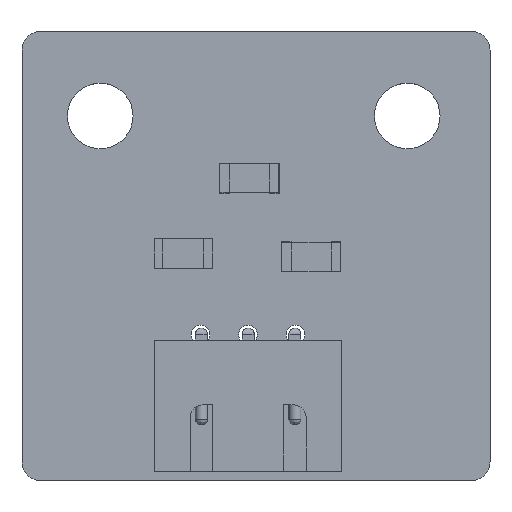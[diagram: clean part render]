
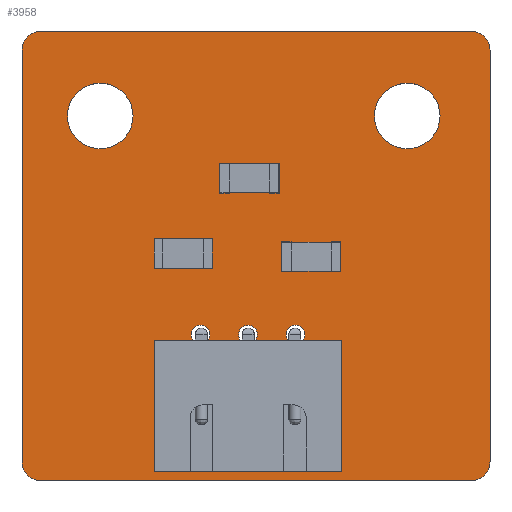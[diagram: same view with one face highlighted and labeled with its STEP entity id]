
A CAD part, top view. The second image highlights one B-rep face of the part: STEP entity #3958.
In plain terms, the highlighted planar face has unit normal (0, 0, 1).
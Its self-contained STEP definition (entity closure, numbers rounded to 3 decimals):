
#3754 = VERTEX_POINT('',#3755);
#3755 = CARTESIAN_POINT('',(76.56,-63.95,1.51));
#3761 = EDGE_CURVE('',#3754,#3762,#3764,.T.);
#3762 = VERTEX_POINT('',#3763);
#3763 = CARTESIAN_POINT('',(77.56,-64.95,1.51));
#3764 = CIRCLE('',#3765,1.);
#3765 = AXIS2_PLACEMENT_3D('',#3766,#3767,#3768);
#3766 = CARTESIAN_POINT('',(76.56,-64.95,1.51));
#3767 = DIRECTION('',(0.,0.,-1.));
#3768 = DIRECTION('',(0.,1.,0.));
#3796 = VERTEX_POINT('',#3797);
#3797 = CARTESIAN_POINT('',(53.56,-63.95,1.51));
#3803 = EDGE_CURVE('',#3796,#3754,#3804,.T.);
#3804 = LINE('',#3805,#3806);
#3805 = CARTESIAN_POINT('',(53.56,-63.95,1.51));
#3806 = VECTOR('',#3807,1.);
#3807 = DIRECTION('',(1.,0.,0.));
#3825 = EDGE_CURVE('',#3762,#3826,#3828,.T.);
#3826 = VERTEX_POINT('',#3827);
#3827 = CARTESIAN_POINT('',(77.56,-86.95,1.51));
#3828 = LINE('',#3829,#3830);
#3829 = CARTESIAN_POINT('',(77.56,-64.95,1.51));
#3830 = VECTOR('',#3831,1.);
#3831 = DIRECTION('',(0.,-1.,0.));
#3958 = ADVANCED_FACE('',(#3959,#4005,#4016,#4027,#4038,#4049),#4060,.T.
  );
#3959 = FACE_BOUND('',#3960,.T.);
#3960 = EDGE_LOOP('',(#3961,#3962,#3963,#3972,#3980,#3989,#3997,#4004));
#3961 = ORIENTED_EDGE('',*,*,#3761,.F.);
#3962 = ORIENTED_EDGE('',*,*,#3803,.F.);
#3963 = ORIENTED_EDGE('',*,*,#3964,.F.);
#3964 = EDGE_CURVE('',#3965,#3796,#3967,.T.);
#3965 = VERTEX_POINT('',#3966);
#3966 = CARTESIAN_POINT('',(52.56,-64.95,1.51));
#3967 = CIRCLE('',#3968,1.);
#3968 = AXIS2_PLACEMENT_3D('',#3969,#3970,#3971);
#3969 = CARTESIAN_POINT('',(53.56,-64.95,1.51));
#3970 = DIRECTION('',(0.,0.,-1.));
#3971 = DIRECTION('',(-1.,0.,-0.));
#3972 = ORIENTED_EDGE('',*,*,#3973,.F.);
#3973 = EDGE_CURVE('',#3974,#3965,#3976,.T.);
#3974 = VERTEX_POINT('',#3975);
#3975 = CARTESIAN_POINT('',(52.56,-86.95,1.51));
#3976 = LINE('',#3977,#3978);
#3977 = CARTESIAN_POINT('',(52.56,-86.95,1.51));
#3978 = VECTOR('',#3979,1.);
#3979 = DIRECTION('',(0.,1.,0.));
#3980 = ORIENTED_EDGE('',*,*,#3981,.F.);
#3981 = EDGE_CURVE('',#3982,#3974,#3984,.T.);
#3982 = VERTEX_POINT('',#3983);
#3983 = CARTESIAN_POINT('',(53.56,-87.95,1.51));
#3984 = CIRCLE('',#3985,1.);
#3985 = AXIS2_PLACEMENT_3D('',#3986,#3987,#3988);
#3986 = CARTESIAN_POINT('',(53.56,-86.95,1.51));
#3987 = DIRECTION('',(0.,0.,-1.));
#3988 = DIRECTION('',(0.,-1.,0.));
#3989 = ORIENTED_EDGE('',*,*,#3990,.F.);
#3990 = EDGE_CURVE('',#3991,#3982,#3993,.T.);
#3991 = VERTEX_POINT('',#3992);
#3992 = CARTESIAN_POINT('',(76.56,-87.95,1.51));
#3993 = LINE('',#3994,#3995);
#3994 = CARTESIAN_POINT('',(76.56,-87.95,1.51));
#3995 = VECTOR('',#3996,1.);
#3996 = DIRECTION('',(-1.,0.,0.));
#3997 = ORIENTED_EDGE('',*,*,#3998,.F.);
#3998 = EDGE_CURVE('',#3826,#3991,#3999,.T.);
#3999 = CIRCLE('',#4000,1.);
#4000 = AXIS2_PLACEMENT_3D('',#4001,#4002,#4003);
#4001 = CARTESIAN_POINT('',(76.56,-86.95,1.51));
#4002 = DIRECTION('',(0.,0.,-1.));
#4003 = DIRECTION('',(1.,0.,0.));
#4004 = ORIENTED_EDGE('',*,*,#3825,.F.);
#4005 = FACE_BOUND('',#4006,.T.);
#4006 = EDGE_LOOP('',(#4007));
#4007 = ORIENTED_EDGE('',*,*,#4008,.T.);
#4008 = EDGE_CURVE('',#4009,#4009,#4011,.T.);
#4009 = VERTEX_POINT('',#4010);
#4010 = CARTESIAN_POINT('',(62.09,-80.65,1.51));
#4011 = CIRCLE('',#4012,0.5);
#4012 = AXIS2_PLACEMENT_3D('',#4013,#4014,#4015);
#4013 = CARTESIAN_POINT('',(62.09,-80.15,1.51));
#4014 = DIRECTION('',(-0.,0.,-1.));
#4015 = DIRECTION('',(-0.,-1.,0.));
#4016 = FACE_BOUND('',#4017,.T.);
#4017 = EDGE_LOOP('',(#4018));
#4018 = ORIENTED_EDGE('',*,*,#4019,.T.);
#4019 = EDGE_CURVE('',#4020,#4020,#4022,.T.);
#4020 = VERTEX_POINT('',#4021);
#4021 = CARTESIAN_POINT('',(64.63,-80.65,1.51));
#4022 = CIRCLE('',#4023,0.5);
#4023 = AXIS2_PLACEMENT_3D('',#4024,#4025,#4026);
#4024 = CARTESIAN_POINT('',(64.63,-80.15,1.51));
#4025 = DIRECTION('',(-0.,0.,-1.));
#4026 = DIRECTION('',(-0.,-1.,0.));
#4027 = FACE_BOUND('',#4028,.T.);
#4028 = EDGE_LOOP('',(#4029));
#4029 = ORIENTED_EDGE('',*,*,#4030,.T.);
#4030 = EDGE_CURVE('',#4031,#4031,#4033,.T.);
#4031 = VERTEX_POINT('',#4032);
#4032 = CARTESIAN_POINT('',(67.17,-80.65,1.51));
#4033 = CIRCLE('',#4034,0.5);
#4034 = AXIS2_PLACEMENT_3D('',#4035,#4036,#4037);
#4035 = CARTESIAN_POINT('',(67.17,-80.15,1.51));
#4036 = DIRECTION('',(-0.,0.,-1.));
#4037 = DIRECTION('',(-0.,-1.,0.));
#4038 = FACE_BOUND('',#4039,.T.);
#4039 = EDGE_LOOP('',(#4040));
#4040 = ORIENTED_EDGE('',*,*,#4041,.T.);
#4041 = EDGE_CURVE('',#4042,#4042,#4044,.T.);
#4042 = VERTEX_POINT('',#4043);
#4043 = CARTESIAN_POINT('',(56.74,-70.22,1.51));
#4044 = CIRCLE('',#4045,1.75);
#4045 = AXIS2_PLACEMENT_3D('',#4046,#4047,#4048);
#4046 = CARTESIAN_POINT('',(56.74,-68.47,1.51));
#4047 = DIRECTION('',(-0.,0.,-1.));
#4048 = DIRECTION('',(-0.,-1.,0.));
#4049 = FACE_BOUND('',#4050,.T.);
#4050 = EDGE_LOOP('',(#4051));
#4051 = ORIENTED_EDGE('',*,*,#4052,.T.);
#4052 = EDGE_CURVE('',#4053,#4053,#4055,.T.);
#4053 = VERTEX_POINT('',#4054);
#4054 = CARTESIAN_POINT('',(73.14,-70.22,1.51));
#4055 = CIRCLE('',#4056,1.75);
#4056 = AXIS2_PLACEMENT_3D('',#4057,#4058,#4059);
#4057 = CARTESIAN_POINT('',(73.14,-68.47,1.51));
#4058 = DIRECTION('',(-0.,0.,-1.));
#4059 = DIRECTION('',(-0.,-1.,0.));
#4060 = PLANE('',#4061);
#4061 = AXIS2_PLACEMENT_3D('',#4062,#4063,#4064);
#4062 = CARTESIAN_POINT('',(0.,0.,1.51));
#4063 = DIRECTION('',(0.,0.,1.));
#4064 = DIRECTION('',(1.,0.,-0.));
